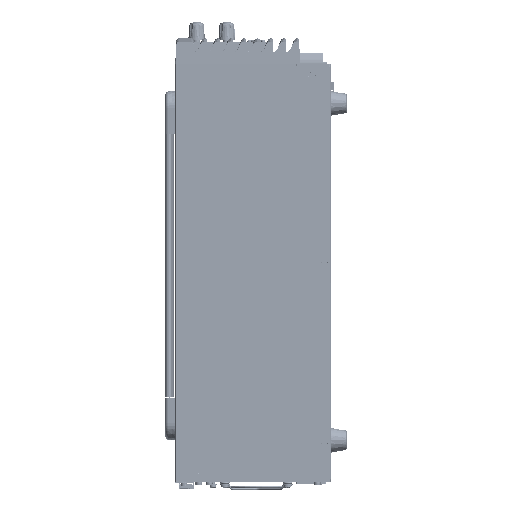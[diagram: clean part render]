
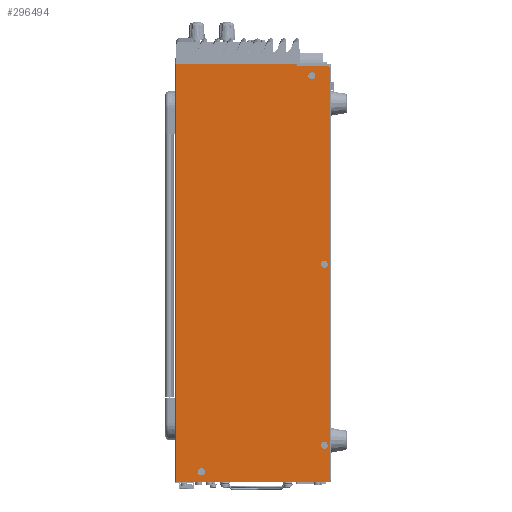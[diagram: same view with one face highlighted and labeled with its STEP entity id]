
A CAD part, left-side view. The second image highlights one B-rep face of the part: STEP entity #296494.
In plain terms, the highlighted planar face has unit normal (-1, 0, 0).
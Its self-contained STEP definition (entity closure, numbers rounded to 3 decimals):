
#294685=CARTESIAN_POINT('',(-106.2,2.5,-3.3));
#294686=DIRECTION('',(1.,0.,0.));
#294687=DIRECTION('',(0.,0.,1.));
#294688=AXIS2_PLACEMENT_3D('',#294685,#294686,#294687);
#294690=CARTESIAN_POINT('',(-106.2,2.5,-330.5));
#294691=DIRECTION('',(1.,0.,0.));
#294692=DIRECTION('',(0.,-1.,0.));
#294693=AXIS2_PLACEMENT_3D('',#294690,#294691,#294692);
#294695=DIRECTION('',(0.,1.,0.));
#294696=VECTOR('',#294695,120.5);
#294697=CARTESIAN_POINT('',(-106.2,2.5,-332.5));
#294698=LINE('',#294697,#294696);
#294699=DIRECTION('',(0.,-1.,0.));
#294700=VECTOR('',#294699,25.1);
#294701=CARTESIAN_POINT('',(-106.2,27.6,-1.3));
#294702=LINE('',#294701,#294700);
#294703=CARTESIAN_POINT('',(-106.2,5.2,-303.));
#294704=DIRECTION('',(-1.,0.,0.));
#294705=DIRECTION('',(0.,1.,0.));
#294706=AXIS2_PLACEMENT_3D('',#294703,#294704,#294705);
#294708=CARTESIAN_POINT('',(-106.2,5.2,-303.));
#294709=DIRECTION('',(-1.,0.,0.));
#294710=DIRECTION('',(0.,-1.,0.));
#294711=AXIS2_PLACEMENT_3D('',#294708,#294709,#294710);
#294713=CARTESIAN_POINT('',(-106.2,5.2,-159.));
#294714=DIRECTION('',(-1.,0.,0.));
#294715=DIRECTION('',(0.,1.,0.));
#294716=AXIS2_PLACEMENT_3D('',#294713,#294714,#294715);
#294718=CARTESIAN_POINT('',(-106.2,5.2,-159.));
#294719=DIRECTION('',(-1.,0.,0.));
#294720=DIRECTION('',(0.,-1.,0.));
#294721=AXIS2_PLACEMENT_3D('',#294718,#294719,#294720);
#294723=CARTESIAN_POINT('',(-106.2,15.2,-9.));
#294724=DIRECTION('',(-1.,0.,0.));
#294725=DIRECTION('',(0.,1.,0.));
#294726=AXIS2_PLACEMENT_3D('',#294723,#294724,#294725);
#294728=CARTESIAN_POINT('',(-106.2,15.2,-9.));
#294729=DIRECTION('',(-1.,0.,0.));
#294730=DIRECTION('',(0.,-1.,0.));
#294731=AXIS2_PLACEMENT_3D('',#294728,#294729,#294730);
#294733=CARTESIAN_POINT('',(-106.2,103.,-324.));
#294734=DIRECTION('',(-1.,0.,0.));
#294735=DIRECTION('',(0.,1.,0.));
#294736=AXIS2_PLACEMENT_3D('',#294733,#294734,#294735);
#294738=CARTESIAN_POINT('',(-106.2,103.,-324.));
#294739=DIRECTION('',(-1.,0.,0.));
#294740=DIRECTION('',(0.,-1.,0.));
#294741=AXIS2_PLACEMENT_3D('',#294738,#294739,#294740);
#294755=DIRECTION('',(0.,0.,1.));
#294756=VECTOR('',#294755,1.3);
#294757=CARTESIAN_POINT('',(-106.2,27.6,-1.3));
#294758=LINE('',#294757,#294756);
#294767=DIRECTION('',(0.,1.,0.));
#294768=VECTOR('',#294767,95.4);
#294769=CARTESIAN_POINT('',(-106.2,27.6,0.));
#294770=LINE('',#294769,#294768);
#294780=DIRECTION('',(0.,0.,-1.));
#294781=VECTOR('',#294780,332.5);
#294782=CARTESIAN_POINT('',(-106.2,123.,0.));
#294783=LINE('',#294782,#294781);
#295923=DIRECTION('',(0.,0.,1.));
#295924=VECTOR('',#295923,327.2);
#295925=CARTESIAN_POINT('',(-106.2,0.5,-330.5));
#295926=LINE('',#295925,#295924);
#296055=CARTESIAN_POINT('',(-106.2,2.5,-1.3));
#296056=CARTESIAN_POINT('',(-106.2,0.5,-3.3));
#296057=VERTEX_POINT('',#296055);
#296058=VERTEX_POINT('',#296056);
#296059=CARTESIAN_POINT('',(-106.2,0.5,-330.5));
#296060=VERTEX_POINT('',#296059);
#296061=CARTESIAN_POINT('',(-106.2,2.5,-332.5));
#296062=VERTEX_POINT('',#296061);
#296063=CARTESIAN_POINT('',(-106.2,123.,-332.5));
#296064=VERTEX_POINT('',#296063);
#296065=CARTESIAN_POINT('',(-106.2,123.,0.));
#296066=VERTEX_POINT('',#296065);
#296067=CARTESIAN_POINT('',(-106.2,27.6,0.));
#296068=VERTEX_POINT('',#296067);
#296069=CARTESIAN_POINT('',(-106.2,27.6,-1.3));
#296070=VERTEX_POINT('',#296069);
#296071=CARTESIAN_POINT('',(-106.2,8.093,-303.));
#296072=CARTESIAN_POINT('',(-106.2,2.307,-303.));
#296073=VERTEX_POINT('',#296071);
#296074=VERTEX_POINT('',#296072);
#296075=CARTESIAN_POINT('',(-106.2,8.093,-159.));
#296076=CARTESIAN_POINT('',(-106.2,2.307,-159.));
#296077=VERTEX_POINT('',#296075);
#296078=VERTEX_POINT('',#296076);
#296079=CARTESIAN_POINT('',(-106.2,18.093,-9.));
#296080=CARTESIAN_POINT('',(-106.2,12.307,-9.));
#296081=VERTEX_POINT('',#296079);
#296082=VERTEX_POINT('',#296080);
#296083=CARTESIAN_POINT('',(-106.2,105.893,-324.));
#296084=CARTESIAN_POINT('',(-106.2,100.107,-324.));
#296085=VERTEX_POINT('',#296083);
#296086=VERTEX_POINT('',#296084);
#296447=CARTESIAN_POINT('',(-106.2,123.,0.));
#296448=DIRECTION('',(-1.,0.,0.));
#296449=DIRECTION('',(0.,-1.,0.));
#296450=AXIS2_PLACEMENT_3D('',#296447,#296448,#296449);
#296451=PLANE('',#296450);
#296453=ORIENTED_EDGE('',*,*,#296452,.T.);
#296455=ORIENTED_EDGE('',*,*,#296454,.F.);
#296457=ORIENTED_EDGE('',*,*,#296456,.T.);
#296459=ORIENTED_EDGE('',*,*,#296458,.T.);
#296461=ORIENTED_EDGE('',*,*,#296460,.F.);
#296463=ORIENTED_EDGE('',*,*,#296462,.F.);
#296465=ORIENTED_EDGE('',*,*,#296464,.F.);
#296467=ORIENTED_EDGE('',*,*,#296466,.T.);
#296468=EDGE_LOOP('',(#296453,#296455,#296457,#296459,#296461,#296463,#296465,
#296467));
#296469=FACE_OUTER_BOUND('',#296468,.F.);
#296471=ORIENTED_EDGE('',*,*,#296470,.T.);
#296473=ORIENTED_EDGE('',*,*,#296472,.T.);
#296474=EDGE_LOOP('',(#296471,#296473));
#296475=FACE_BOUND('',#296474,.F.);
#296477=ORIENTED_EDGE('',*,*,#296476,.T.);
#296479=ORIENTED_EDGE('',*,*,#296478,.T.);
#296480=EDGE_LOOP('',(#296477,#296479));
#296481=FACE_BOUND('',#296480,.F.);
#296483=ORIENTED_EDGE('',*,*,#296482,.T.);
#296485=ORIENTED_EDGE('',*,*,#296484,.T.);
#296486=EDGE_LOOP('',(#296483,#296485));
#296487=FACE_BOUND('',#296486,.F.);
#296489=ORIENTED_EDGE('',*,*,#296488,.T.);
#296491=ORIENTED_EDGE('',*,*,#296490,.T.);
#296492=EDGE_LOOP('',(#296489,#296491));
#296493=FACE_BOUND('',#296492,.F.);
#296494=ADVANCED_FACE('',(#296469,#296475,#296481,#296487,#296493),#296451,.T.);
#294689=CIRCLE('',#294688,2.);
#294694=CIRCLE('',#294693,2.);
#294707=CIRCLE('',#294706,2.893);
#294712=CIRCLE('',#294711,2.893);
#294717=CIRCLE('',#294716,2.893);
#294722=CIRCLE('',#294721,2.893);
#294727=CIRCLE('',#294726,2.893);
#294732=CIRCLE('',#294731,2.893);
#294737=CIRCLE('',#294736,2.893);
#294742=CIRCLE('',#294741,2.893);
#296452=EDGE_CURVE('',#296057,#296058,#294689,.T.);
#296454=EDGE_CURVE('',#296060,#296058,#295926,.T.);
#296456=EDGE_CURVE('',#296060,#296062,#294694,.T.);
#296458=EDGE_CURVE('',#296062,#296064,#294698,.T.);
#296460=EDGE_CURVE('',#296066,#296064,#294783,.T.);
#296462=EDGE_CURVE('',#296068,#296066,#294770,.T.);
#296464=EDGE_CURVE('',#296070,#296068,#294758,.T.);
#296466=EDGE_CURVE('',#296070,#296057,#294702,.T.);
#296470=EDGE_CURVE('',#296073,#296074,#294707,.T.);
#296472=EDGE_CURVE('',#296074,#296073,#294712,.T.);
#296476=EDGE_CURVE('',#296077,#296078,#294717,.T.);
#296478=EDGE_CURVE('',#296078,#296077,#294722,.T.);
#296482=EDGE_CURVE('',#296081,#296082,#294727,.T.);
#296484=EDGE_CURVE('',#296082,#296081,#294732,.T.);
#296488=EDGE_CURVE('',#296085,#296086,#294737,.T.);
#296490=EDGE_CURVE('',#296086,#296085,#294742,.T.);
